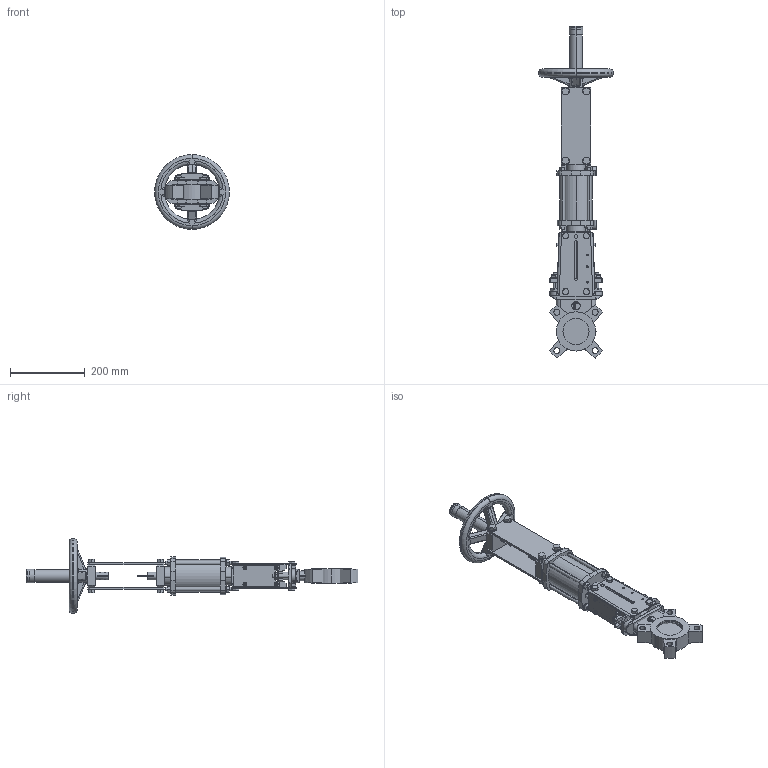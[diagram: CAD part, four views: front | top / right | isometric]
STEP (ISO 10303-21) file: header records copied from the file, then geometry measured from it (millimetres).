
FILE_DESCRIPTION (( 'STEP AP203' ), '1' );
FILE_NAME ('VG D DN65.STEP', '2010-01-27T02:22:42', ( 'farex' ), ( '' ), 'SwSTEP 2.0', 'SolidWorks 2009', '' );
FILE_SCHEMA (( 'CONFIG_CONTROL_DESIGN' ));
Length unit declared in the file: millimetre
Products named in the file (1): VG D DN65
Bounding box: 200 x 887.87 x 200 mm (x, y, z)
Volume: 2371849.3 mm3; surface area: 606729.7 mm2
Topology: 6 solids, 23 shells, 1386 faces, 3535 edges, 2299 vertices
Faces by surface type: plane 718, cylinder 408, cone 130, bspline 87, torus 43
Entity records: 50506 total; most frequent: CARTESIAN_POINT 17189, ORIENTED_EDGE 7070, DIRECTION 6650, EDGE_CURVE 3535, AXIS2_PLACEMENT_3D 2391, VERTEX_POINT 2299, VECTOR 1868, LINE 1868
